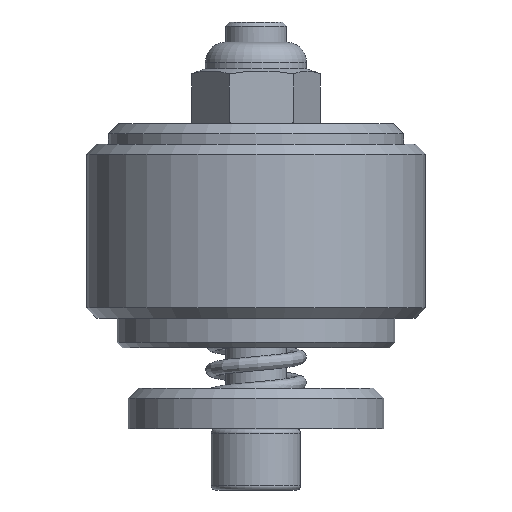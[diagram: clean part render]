
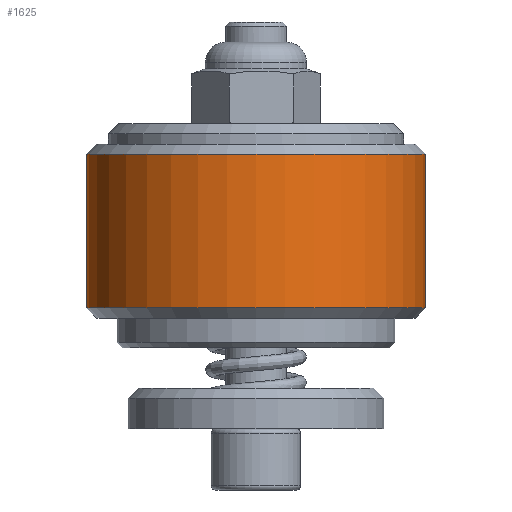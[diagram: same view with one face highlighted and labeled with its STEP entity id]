
A CAD part, front view. The second image highlights one B-rep face of the part: STEP entity #1625.
In plain terms, the highlighted cylindrical face has radius 8.331 mm (diameter 16.662 mm), a full revolution.
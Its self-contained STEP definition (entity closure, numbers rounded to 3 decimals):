
#26=CYLINDRICAL_SURFACE('',#1724,8.331);
#57=CIRCLE('',#1721,8.331);
#59=CIRCLE('',#1725,8.331);
#244=ORIENTED_EDGE('',*,*,#495,.T.);
#245=ORIENTED_EDGE('',*,*,#493,.T.);
#493=EDGE_CURVE('',#629,#629,#57,.F.);
#495=EDGE_CURVE('',#631,#631,#59,.F.);
#629=VERTEX_POINT('',#5830);
#631=VERTEX_POINT('',#5836);
#790=EDGE_LOOP('',(#244));
#791=EDGE_LOOP('',(#245));
#918=FACE_BOUND('',#790,.T.);
#919=FACE_BOUND('',#791,.T.);
#1625=ADVANCED_FACE('',(#918,#919),#26,.T.);
#1721=AXIS2_PLACEMENT_3D('',#5829,#1940,#1941);
#1724=AXIS2_PLACEMENT_3D('',#5834,#1946,#1947);
#1725=AXIS2_PLACEMENT_3D('',#5835,#1948,#1949);
#1940=DIRECTION('',(0.,0.,-1.));
#1941=DIRECTION('',(-1.,0.,0.));
#1946=DIRECTION('',(0.,0.,-1.));
#1947=DIRECTION('',(-1.,0.,0.));
#1948=DIRECTION('',(0.,0.,1.));
#1949=DIRECTION('',(1.,0.,0.));
#5829=CARTESIAN_POINT('',(0.,0.,1.95));
#5830=CARTESIAN_POINT('',(-8.331,0.,1.95));
#5834=CARTESIAN_POINT('',(0.,0.,11.));
#5835=CARTESIAN_POINT('',(0.,0.,9.5));
#5836=CARTESIAN_POINT('',(8.331,0.,9.5));
